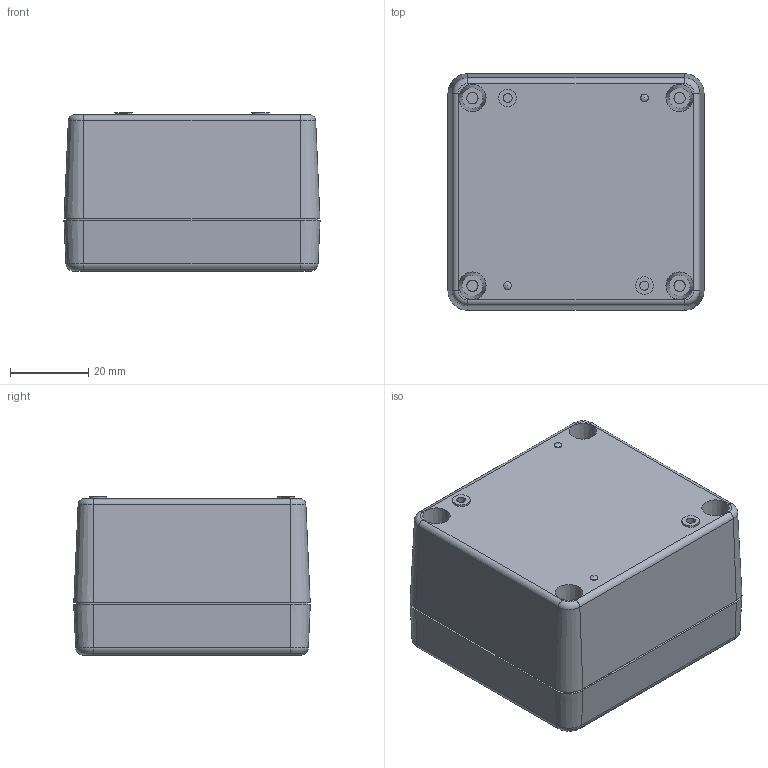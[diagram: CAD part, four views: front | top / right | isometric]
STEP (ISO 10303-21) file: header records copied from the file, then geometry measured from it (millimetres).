
FILE_DESCRIPTION((''),'2;1');
FILE_NAME('E:\Eng\Customer Service\Drawings\Ritec\Step\RP SERIES\RP1025.stp','2008-07-09T08:43:19',('tmalott'),(''),'Autodesk Inventor 2009','Autodesk Inventor 2009','');
FILE_SCHEMA(('AUTOMOTIVE_DESIGN { 1 0 10303 214 1 1 1 1 }'));
Length unit declared in the file: millimetre
Products named in the file (6): RP1025 - SCREWS; M35x10-pan(B18.6.7M - M3.5 x 0.6 x 10 Type I Cross Recessed PHMS --10S)_0A; M35D 951127_0A; RP1025T_0A; RP1025B_0A; Plate
Assembly tree (11 placements, depth 2):
  RP1025 - SCREWS
    M35x10-pan(B18.6.7M - M3.5 x 0.6 x 10 Type I Cross Recessed PHMS --10S)_0A  x4
    M35D 951127_0A  x4
    RP1025T_0A
    RP1025B_0A
    Plate
Bounding box: 65.5 x 60.5 x 40.5 mm (x, y, z)
Volume: 51742 mm3; surface area: 44033 mm2
Topology: 11 solids, 11 shells, 723 faces, 1685 edges, 1035 vertices
Faces by surface type: plane 267, cylinder 200, cone 174, torus 56, bspline 16, sphere 10
Full cylindrical faces by diameter (mm): 2 x2, 2.3 x2, 2.5 x2, 2.9 x24, 3 x4, 3.5 x38, 4.5 x2, 4.6 x8, 5.5 x8, 7 x4
Entity records: 15225 total; most frequent: CARTESIAN_POINT 3980, DIRECTION 2487, ORIENTED_EDGE 2102, EDGE_CURVE 1051, AXIS2_PLACEMENT_3D 983, VERTEX_POINT 693, EDGE_LOOP 608, VECTOR 521
